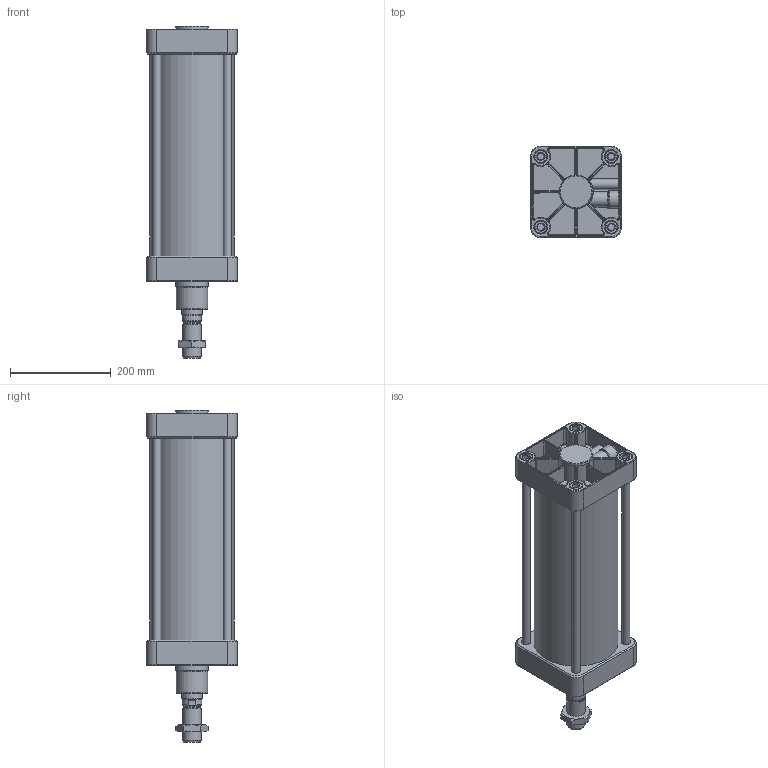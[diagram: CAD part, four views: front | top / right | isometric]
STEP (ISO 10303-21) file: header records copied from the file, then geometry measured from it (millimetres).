
FILE_DESCRIPTION(/* description */ ('Unknown'),/* implementation_level */ '2;1');
FILE_NAME(/* name */ 'UDM 160_320',/* time_stamp */ '2024-08-15T09:00:35+02:00',/* author */ ('Unknown'),/* organization */ ('Unknown'),/* preprocessor_version */ 'ST-DEVELOPER v16.7',/* originating_system */ 'Solid Edge',/* authorisation */ 'Unknown');
FILE_SCHEMA (('AUTOMOTIVE_DESIGN {1 0 10303 214 3 1 1}'));
Length unit declared in the file: millimetre
Products named in the file (7): UDM 160_320; Profilrohr 160_320; Mutter; Kolbenstange 160_320; Kit_1; Zugstange 160_320; Kit_2
Assembly tree (9 placements, depth 2):
  UDM 160_320
    Profilrohr 160_320
    Mutter
    Kolbenstange 160_320
    Kit_1
    Zugstange 160_320  x4
    Kit_2
Bounding box: 180 x 180 x 658 mm (x, y, z)
Volume: 4958382.7 mm3; surface area: 1065700.5 mm2
Topology: 9 solids, 14 shells, 1263 faces, 3132 edges, 1924 vertices
Faces by surface type: cylinder 416, plane 386, torus 240, bspline 114, cone 97, sphere 10
Full cylindrical faces by diameter (mm): 6 x2, 8 x2, 8.2 x2, 12 x2, 13.82 x8, 13.835 x8, 16 x6, 17.5 x8, 18 x2, 24.11 x2, 24.117 x2, 25 x8, 26 x8, 32.8 x1, 33.835 x1, 36 x3, 39 x1, 40 x2, 40.6 x1, 40.8 x1, 40.962 x1, 45 x2, 50 x2, 62 x1, 65 x2, 66.5 x2, 160 x2, 167 x1
Entity records: 50402 total; most frequent: CARTESIAN_POINT 13835, ORIENTED_EDGE 5970, DIRECTION 5415, EDGE_CURVE 2985, AXIS2_PLACEMENT_3D 2182, VERTEX_POINT 1882, EDGE_LOOP 1395, FACE_BOUND 1395
